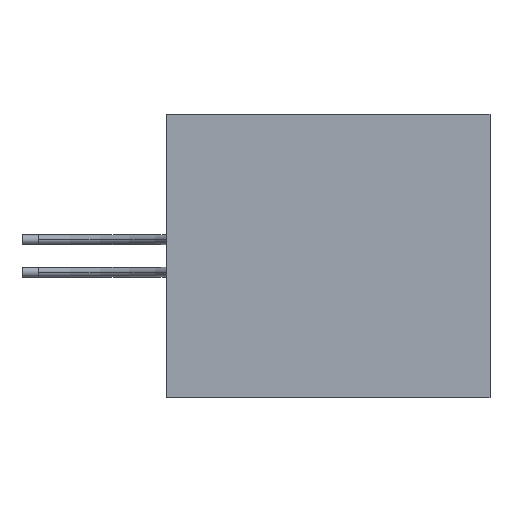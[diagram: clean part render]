
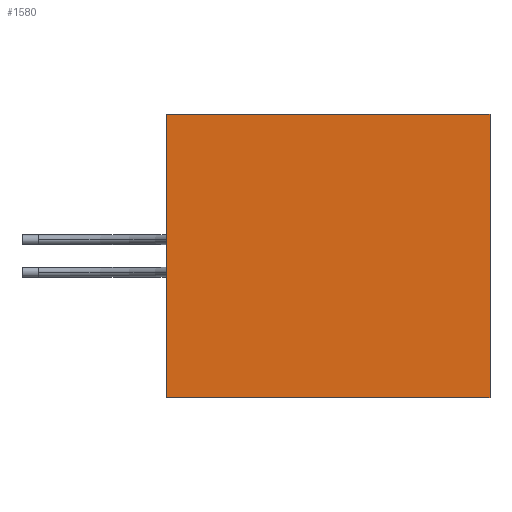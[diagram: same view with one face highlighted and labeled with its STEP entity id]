
A CAD part, front view. The second image highlights one B-rep face of the part: STEP entity #1580.
In plain terms, the highlighted planar face has unit normal (0, -1, 0).
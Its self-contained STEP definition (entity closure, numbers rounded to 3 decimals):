
#9 = LINE ( 'NONE', #125, #1438 ) ;
#125 = CARTESIAN_POINT ( 'NONE',  ( 40., -17.5, 17.5 ) ) ;
#173 = AXIS2_PLACEMENT_3D ( 'NONE', #549, #535, #523 ) ;
#178 = DIRECTION ( 'NONE',  ( 0., 0., -1. ) ) ;
#212 = DIRECTION ( 'NONE',  ( -1., 0., 0. ) ) ;
#258 = CARTESIAN_POINT ( 'NONE',  ( 40., -17.5, -17.5 ) ) ;
#322 = VECTOR ( 'NONE', #1869, 1000. ) ;
#348 = LINE ( 'NONE', #1924, #322 ) ;
#414 = VECTOR ( 'NONE', #212, 1000. ) ;
#435 = LINE ( 'NONE', #258, #414 ) ;
#469 = CARTESIAN_POINT ( 'NONE',  ( 40., -17.5, 17.5 ) ) ;
#481 = FACE_OUTER_BOUND ( 'NONE', #1392, .T. ) ;
#523 = DIRECTION ( 'NONE',  ( 0., 0., 1. ) ) ;
#535 = DIRECTION ( 'NONE',  ( 0., 1., 0. ) ) ;
#549 = CARTESIAN_POINT ( 'NONE',  ( 40., -17.5, 17.5 ) ) ;
#680 = ORIENTED_EDGE ( 'NONE', *, *, #1603, .T. ) ;
#777 = CARTESIAN_POINT ( 'NONE',  ( 40., -17.5, -17.5 ) ) ;
#949 = EDGE_CURVE ( 'NONE', #1416, #1305, #9, .T. ) ;
#1036 = CARTESIAN_POINT ( 'NONE',  ( 0., -17.5, 17.5 ) ) ;
#1113 = VERTEX_POINT ( 'NONE', #2312 ) ;
#1130 = VERTEX_POINT ( 'NONE', #2240 ) ;
#1251 = VECTOR ( 'NONE', #1387, 1000. ) ;
#1268 = LINE ( 'NONE', #1036, #1251 ) ;
#1305 = VERTEX_POINT ( 'NONE', #777 ) ;
#1387 = DIRECTION ( 'NONE',  ( 0., 0., -1. ) ) ;
#1392 = EDGE_LOOP ( 'NONE', ( #1860, #1474, #1668, #680 ) ) ;
#1402 = EDGE_CURVE ( 'NONE', #1130, #1113, #1268, .T. ) ;
#1416 = VERTEX_POINT ( 'NONE', #469 ) ;
#1438 = VECTOR ( 'NONE', #178, 1000. ) ;
#1474 = ORIENTED_EDGE ( 'NONE', *, *, #1590, .F. ) ;
#1580 = ADVANCED_FACE ( 'NONE', ( #481 ), #1605, .F. ) ;
#1590 = EDGE_CURVE ( 'NONE', #1305, #1113, #435, .T. ) ;
#1603 = EDGE_CURVE ( 'NONE', #1416, #1130, #348, .T. ) ;
#1605 = PLANE ( 'NONE',  #173 ) ;
#1668 = ORIENTED_EDGE ( 'NONE', *, *, #949, .F. ) ;
#1860 = ORIENTED_EDGE ( 'NONE', *, *, #1402, .T. ) ;
#1869 = DIRECTION ( 'NONE',  ( -1., 0., 0. ) ) ;
#1924 = CARTESIAN_POINT ( 'NONE',  ( 40., -17.5, 17.5 ) ) ;
#2240 = CARTESIAN_POINT ( 'NONE',  ( 0., -17.5, 17.5 ) ) ;
#2312 = CARTESIAN_POINT ( 'NONE',  ( 0., -17.5, -17.5 ) ) ;
